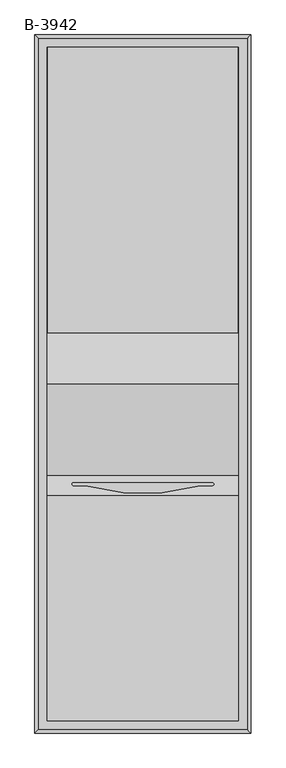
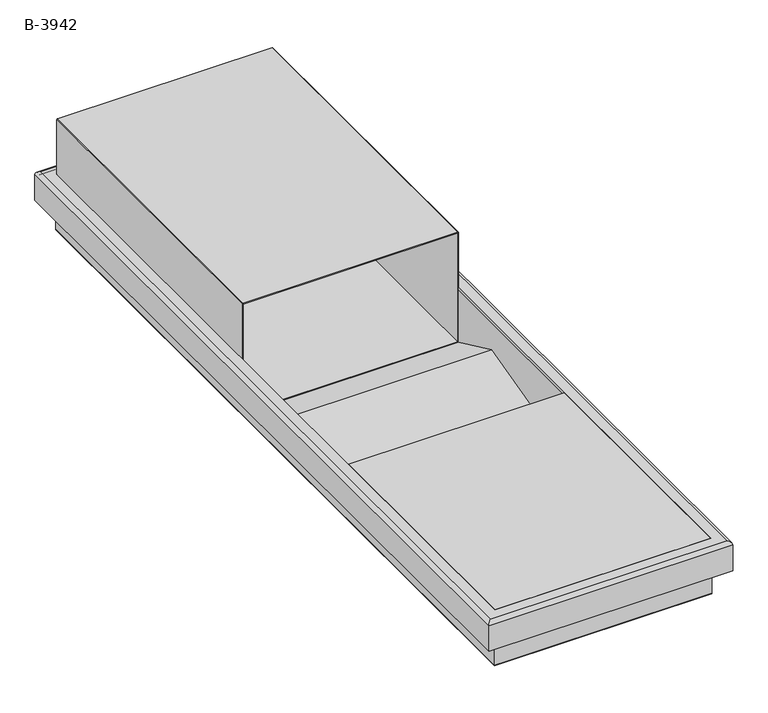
"""IFC4 building model written with IfcOpenShell, lengths in millimetres: proxy geometry, Paper_Towel_Dispenser_And_Waste_Receptacle-Bobrick-B3942-Semi_Recessed_Convertible : B-3942."""

from ifc_helpers import new_model, si_unit, frame, origin, place, context, project, spatial, polyline, circle_curve, ellipse_curve, outline, extrude, source, transform, mapped, element, save
from ifc_brep_helpers import plane_surface, cylinder_surface, revolved_surface, advanced_brep


def b_3942_b31eb5a3(model_context):
    return source(origin(), model_context, "Body", "SolidModel", [
        advanced_brep(
        [(215.10625, 708.025, 55.5625), (215.10625, -708.025, 55.5625), (221.45625, -714.375, 49.2125), (221.45625, 714.375, 49.2125), (196.05625, 688.975, 50.8), (196.05625, -688.975, 50.8), (196.05625, -688.975, 55.5625), (196.05625, 688.975, 55.5625), (216.69375, 709.6125, 47.625), (216.69375, -709.6125, 47.625), (213.51875, -706.4375, 50.8), (213.51875, 706.4375, 50.8), (216.69375, 709.6125, 0.0), (216.69375, -709.6125, 0.0), (221.45625, -714.375, 0.0), (221.45625, 714.375, 0.0), (-215.10625, -708.025, 55.5625), (-221.45625, -714.375, 49.2125), (-196.05625, -688.975, 50.8), (-196.05625, -688.975, 55.5625), (-216.69375, -709.6125, 47.625), (-213.51875, -706.4375, 50.8), (-216.69375, -709.6125, 0.0), (-221.45625, -714.375, 0.0), (-215.10625, 708.025, 55.5625), (-221.45625, 714.375, 49.2125), (-196.05625, 688.975, 50.8), (-196.05625, 688.975, 55.5625), (-216.69375, 709.6125, 47.625), (-213.51875, 706.4375, 50.8), (-216.69375, 709.6125, 0.0), (-221.45625, 714.375, 0.0)],
        [
            (0, 1),
            (1, 2, ellipse_curve(frame((215.10625, -708.025, 49.2125), z_axis=(0.7071067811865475, 0.7071067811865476, 0.0), x_axis=(-0.7071067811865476, 0.7071067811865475, 0.0)), 8.9802561, 6.35)),
            (2, 3),
            (3, 0, ellipse_curve(frame((215.10625, 708.025, 49.2125), z_axis=(0.7071067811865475, -0.7071067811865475, 0.0), x_axis=(0.7071067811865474, 0.7071067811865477, 0.0)), 8.9802561, 6.35)),
            (4, 5),
            (5, 6),
            (6, 7),
            (7, 4),
            (8, 9),
            (9, 10, ellipse_curve(frame((213.51875, -706.4375, 47.625), z_axis=(-0.7071067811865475, -0.7071067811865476, 0.0), x_axis=(0.7071067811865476, -0.7071067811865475, 0.0)), 4.4901281, 3.175)),
            (10, 11),
            (11, 8, ellipse_curve(frame((213.51875, 706.4375, 47.625), z_axis=(-0.7071067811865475, 0.7071067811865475, 0.0), x_axis=(-0.7071067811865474, -0.7071067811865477, 0.0)), 4.4901281, 3.175)),
            (8, 12),
            (12, 13),
            (13, 9),
            (2, 14),
            (14, 15),
            (15, 3),
            (1, 16),
            (16, 17, ellipse_curve(frame((-215.10625, -708.025, 49.2125), z_axis=(0.7071067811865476, -0.7071067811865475, 0.0), x_axis=(0.7071067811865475, 0.7071067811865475, 0.0)), 8.9802561, 6.35)),
            (17, 2),
            (5, 18),
            (18, 19),
            (19, 6),
            (9, 20),
            (20, 21, ellipse_curve(frame((-213.51875, -706.4375, 47.625), z_axis=(-0.7071067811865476, 0.7071067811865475, 0.0), x_axis=(-0.7071067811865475, -0.7071067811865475, 0.0)), 4.4901281, 3.175)),
            (21, 10),
            (13, 22),
            (22, 20),
            (17, 23),
            (23, 14),
            (16, 24),
            (24, 25, ellipse_curve(frame((-215.10625, 708.025, 49.2125), z_axis=(-0.7071067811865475, -0.7071067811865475, 0.0), x_axis=(0.7071067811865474, -0.7071067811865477, 0.0)), 8.9802561, 6.35)),
            (25, 17),
            (18, 26),
            (26, 27),
            (27, 19),
            (20, 28),
            (28, 29, ellipse_curve(frame((-213.51875, 706.4375, 47.625), z_axis=(0.7071067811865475, 0.7071067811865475, 0.0), x_axis=(-0.7071067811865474, 0.7071067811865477, 0.0)), 4.4901281, 3.175)),
            (29, 21),
            (22, 30),
            (30, 28),
            (25, 31),
            (31, 23),
            (3, 25),
            (24, 0),
            (27, 7),
            (26, 4),
            (29, 11),
            (28, 8),
            (30, 12),
            (31, 15),
        ],
        [
            cylinder_surface(frame((215.10625, 714.375, 49.2125), z_axis=(0.0, 1.0, 0.0), x_axis=(-1.0, 0.0, 0.0)), 6.35),
            plane_surface(frame((196.05625, 688.975, 55.5625), z_axis=(-1.0, 0.0, 0.0), x_axis=(0.0, -1.0, 0.0))),
            revolved_surface(polyline([(210.34375, -709.6125000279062, 47.625), (210.34375, 709.6125000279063, 47.625)]), (213.51875, 714.375, 47.625), (0.0, -1.0, 0.0)),
            plane_surface(frame((216.69375, 709.6125, 47.625), z_axis=(-1.0, 0.0, 0.0), x_axis=(0.0, -1.0, 0.0))),
            plane_surface(frame((221.45625, 714.375, 0.0), z_axis=(1.0, 0.0, 0.0), x_axis=(0.0, -1.0, 0.0))),
            cylinder_surface(frame((221.45625, -708.025, 49.2125), z_axis=(1.0, 0.0, 0.0), x_axis=(0.0, 1.0, 0.0)), 6.35),
            plane_surface(frame((196.05625, -688.975, 55.5625), z_axis=(0.0, 1.0, 0.0), x_axis=(-1.0, 0.0, 0.0))),
            revolved_surface(polyline([(-216.69375002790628, -703.2625, 47.625), (216.69375002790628, -703.2625, 47.625)]), (221.45625, -706.4375, 47.625), (-1.0, 0.0, 0.0)),
            plane_surface(frame((216.69375, -709.6125, 47.625), z_axis=(0.0, 1.0, 0.0), x_axis=(-1.0, 0.0, 0.0))),
            plane_surface(frame((221.45625, -714.375, 0.0), z_axis=(0.0, -1.0, 0.0), x_axis=(-1.0, 0.0, 0.0))),
            cylinder_surface(frame((-215.10625, -714.375, 49.2125), z_axis=(0.0, -1.0, 0.0), x_axis=(1.0, 0.0, 0.0)), 6.35),
            plane_surface(frame((-196.05625, -688.975, 55.5625), z_axis=(1.0, 0.0, 0.0), x_axis=(0.0, 1.0, 0.0))),
            revolved_surface(polyline([(-210.34375, 709.6125000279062, 47.625), (-210.34375, -709.6125000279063, 47.625)]), (-213.51875, -714.375, 47.625), (0.0, 1.0, 0.0)),
            plane_surface(frame((-216.69375, -709.6125, 47.625), z_axis=(1.0, 0.0, 0.0), x_axis=(0.0, 1.0, 0.0))),
            plane_surface(frame((-221.45625, -714.375, 0.0), z_axis=(-1.0, 0.0, 0.0), x_axis=(0.0, 1.0, 0.0))),
            cylinder_surface(frame((-221.45625, 708.025, 49.2125), z_axis=(-1.0, 0.0, 0.0), x_axis=(0.0, -1.0, 0.0)), 6.35),
            plane_surface(frame((-215.10625, 708.025, 55.5625), z_axis=(0.0, 0.0, 1.0), x_axis=(1.0, 0.0, 0.0))),
            plane_surface(frame((-196.05625, 688.975, 55.5625), z_axis=(0.0, -1.0, 0.0), x_axis=(1.0, 0.0, 0.0))),
            plane_surface(frame((-196.05625, 688.975, 50.8), z_axis=(0.0, 0.0, -1.0), x_axis=(1.0, 0.0, 0.0))),
            revolved_surface(polyline([(216.69375002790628, 703.2625, 47.625), (-216.69375002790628, 703.2625, 47.625)]), (-221.45625, 706.4375, 47.625), (1.0, 0.0, 0.0)),
            plane_surface(frame((-216.69375, 709.6125, 47.625), z_axis=(0.0, -1.0, 0.0), x_axis=(1.0, 0.0, 0.0))),
            plane_surface(frame((-216.69375, 709.6125, 0.0), z_axis=(0.0, 0.0, -1.0), x_axis=(1.0, 0.0, 0.0))),
            plane_surface(frame((-221.45625, 714.375, 0.0), z_axis=(0.0, 1.0, 0.0), x_axis=(1.0, 0.0, 0.0))),
        ],
        [
            (0, [[1, 2, 3, 4]]),
            (1, [[5, 6, 7, 8]]),
            (2, [[9, 10, 11, 12]]),
            (3, [[13, 14, 15, -9]]),
            (4, [[16, 17, 18, -3]]),
            (5, [[19, 20, 21, -2]]),
            (6, [[22, 23, 24, -6]]),
            (7, [[25, 26, 27, -10]]),
            (8, [[28, 29, -25, -15]]),
            (9, [[-21, 30, 31, -16]]),
            (10, [[32, 33, 34, -20]]),
            (11, [[35, 36, 37, -23]]),
            (12, [[38, 39, 40, -26]]),
            (13, [[41, 42, -38, -29]]),
            (14, [[-34, 43, 44, -30]]),
            (15, [[45, -33, 46, -4]]),
            (16, [[-46, -32, -19, -1], [-24, -37, 47, -7]]),
            (17, [[-47, -36, 48, -8]]),
            (18, [[-27, -40, 49, -11], [-48, -35, -22, -5]]),
            (19, [[-49, -39, 50, -12]]),
            (20, [[-50, -42, 51, -13]]),
            (21, [[-31, -44, 52, -17], [-51, -41, -28, -14]]),
            (22, [[-52, -43, -45, -18]]),
        ],
    ),
        advanced_brep(
        [(197.64375, -690.5625, 50.8), (197.64375, 690.5625, 50.8), (-197.64375, 690.5625, 50.8), (-197.64375, -690.5625, 50.8), (196.05625, 688.975, 50.8), (196.05625, -226.695, 50.8), (196.05625, -228.6, 50.8), (196.05625, -688.975, 50.8), (-196.05625, -688.975, 50.8), (-196.05625, -228.6, 50.8), (-196.05625, -226.695, 50.8), (-196.05625, 688.975, 50.8), (197.64375, -690.5625, -49.2125), (-197.64375, -690.5625, -49.2125), (-197.64375, 690.5625, -49.2125), (197.64375, 690.5625, -49.2125), (196.05625, -688.975, -49.2125), (196.05625, -188.595, -49.2125), (-196.05625, -188.595, -49.2125), (-196.05625, -688.975, -49.2125), (-196.05625, 688.975, -49.2125), (-196.05625, 104.775, -49.2125), (196.05625, 104.775, -49.2125), (196.05625, 688.975, -49.2125), (196.05625, 0.0, 0.0), (196.05625, -187.325, -47.625), (-196.05625, -187.325, -47.625), (-196.05625, 0.0, 0.0), (196.05625, -228.6, 55.5625), (196.05625, -688.975, 55.5625), (196.05625, -688.975, 50.8), (-196.05625, -228.6, 55.5625), (-196.05625, -688.975, 50.8), (-196.05625, -688.975, 55.5625), (142.08125, -201.6125, -11.90625), (142.08125, -207.9625, 3.96875), (117.475, -207.9625, 3.96875), (-117.475, -207.9625, 3.96875), (-142.08125, -207.9625, 3.96875), (-142.08125, -201.6125, -11.90625), (-142.08125, -201.6125, -16.66875), (-142.08125, -207.9625, -0.79375), (-117.475, -207.9625, -0.79375), (117.475, -207.9625, -0.79375), (142.08125, -207.9625, -0.79375), (142.08125, -201.6125, -16.66875)],
        [
            (0, 1),
            (1, 2),
            (2, 3),
            (3, 0),
            (4, 5),
            (5, 6),
            (6, 7),
            (7, 8),
            (8, 9),
            (9, 10),
            (10, 11),
            (11, 4),
            (12, 13),
            (13, 14),
            (14, 15),
            (15, 12),
            (16, 17),
            (17, 18),
            (18, 19),
            (19, 16),
            (20, 21),
            (21, 22),
            (22, 23),
            (23, 20),
            (3, 13),
            (12, 0),
            (2, 14),
            (1, 15),
            (6, 17),
            (16, 7),
            (22, 24),
            (24, 25),
            (25, 5),
            (4, 23),
            (11, 20),
            (10, 26),
            (26, 27),
            (27, 21),
            (18, 9),
            (8, 19),
            (5, 28),
            (28, 29),
            (29, 30),
            (30, 6),
            (31, 10),
            (9, 32),
            (32, 33),
            (33, 31),
            (30, 32),
            (9, 6),
            (29, 33),
            (28, 31),
            (25, 26),
            (34, 35, ellipse_curve(frame((142.08125, -204.7875, -3.96875), z_axis=(0.0, -0.9284766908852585, -0.37139067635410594), x_axis=(0.0, 0.371390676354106, -0.9284766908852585)), 8.5489491, 3.175)),
            (35, 36),
            (36, 37, ellipse_curve(frame((0.0, 215.9738116, -1055.872029), z_axis=(0.0, -0.9284766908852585, -0.37139067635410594), x_axis=(0.0, 0.371390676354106, -0.9284766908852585)), 1184.498711, 439.9117774)),
            (37, 38),
            (38, 39, ellipse_curve(frame((-142.08125, -204.7875, -3.96875), z_axis=(0.0, -0.9284766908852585, -0.37139067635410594), x_axis=(0.0, 0.371390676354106, -0.9284766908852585)), 8.5489491, 3.175)),
            (39, 34),
            (40, 41, ellipse_curve(frame((-142.08125, -204.7875, -8.73125), z_axis=(0.0, 0.9284766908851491, 0.3713906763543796), x_axis=(0.0, 0.3713906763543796, -0.928476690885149)), 8.5489491, 3.175)),
            (41, 42),
            (42, 43, ellipse_curve(frame((0.0, 215.9738116, -1060.634529), z_axis=(0.0, 0.9284766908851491, 0.3713906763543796), x_axis=(0.0, 0.3713906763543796, -0.928476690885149)), 1184.498711, 439.9117774)),
            (43, 44),
            (44, 45, ellipse_curve(frame((142.08125, -204.7875, -8.73125), z_axis=(0.0, 0.9284766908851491, 0.3713906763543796), x_axis=(0.0, 0.3713906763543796, -0.928476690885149)), 8.5489491, 3.175)),
            (45, 40),
            (24, 27),
            (39, 40),
            (45, 34),
            (38, 41),
            (37, 42),
            (36, 43),
            (35, 44),
        ],
        [
            plane_surface(frame((-197.64375, -690.5625, 50.8), z_axis=(0.0, 0.0, 1.0), x_axis=(-1.0, 0.0, 0.0))),
            plane_surface(frame((-197.64375, -690.5625, -49.2125), z_axis=(0.0, 0.0, -1.0), x_axis=(1.0, 0.0, 0.0))),
            plane_surface(frame((197.64375, -690.5625, 50.8), z_axis=(0.0, -1.0, 0.0), x_axis=(0.0, 0.0, -1.0))),
            plane_surface(frame((-197.64375, -690.5625, 50.8), z_axis=(-1.0, 0.0, 0.0), x_axis=(0.0, 0.0, -1.0))),
            plane_surface(frame((-197.64375, 690.5625, 50.8), z_axis=(0.0, 1.0, 0.0), x_axis=(0.0, 0.0, -1.0))),
            plane_surface(frame((197.64375, 690.5625, 50.8), z_axis=(1.0, 0.0, 0.0), x_axis=(0.0, 0.0, -1.0))),
            plane_surface(frame((196.05625, -688.975, 50.8), z_axis=(-1.0, 0.0, 0.0), x_axis=(0.0, 0.0, -1.0))),
            plane_surface(frame((196.05625, 688.975, 50.8), z_axis=(0.0, -1.0, 0.0), x_axis=(0.0, 0.0, -1.0))),
            plane_surface(frame((-196.05625, 688.975, 50.8), z_axis=(1.0, 0.0, 0.0), x_axis=(0.0, 0.0, -1.0))),
            plane_surface(frame((-196.05625, -688.975, 50.8), z_axis=(0.0, 1.0, 0.0), x_axis=(0.0, 0.0, -1.0))),
            plane_surface(frame((196.05625, -228.6, 55.5625), z_axis=(1.0000000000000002, 0.0, 0.0), x_axis=(0.0, 0.37139067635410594, -0.9284766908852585))),
            plane_surface(frame((-196.05625, -228.6, 55.5625), z_axis=(-1.0000000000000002, 0.0, 0.0), x_axis=(0.0, -0.37139067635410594, 0.9284766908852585))),
            plane_surface(frame((196.05625, -228.6, 50.8), z_axis=(0.0, 0.0, -1.0), x_axis=(-1.0, 0.0, 0.0))),
            plane_surface(frame((196.05625, -688.975, 50.8), z_axis=(0.0, -1.0, 0.0), x_axis=(-1.0, 0.0, 0.0))),
            plane_surface(frame((196.05625, -688.975, 55.5625), z_axis=(0.0, 0.0, 1.0), x_axis=(-1.0, 0.0, 0.0))),
            plane_surface(frame((196.05625, -228.6, 55.5625), z_axis=(0.0, 0.9284766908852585, 0.37139067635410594), x_axis=(-1.0, 0.0, 0.0))),
            plane_surface(frame((196.05625, -188.595, -49.2125), z_axis=(0.0, -0.9284766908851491, -0.3713906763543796), x_axis=(-1.0, 0.0, 0.0))),
            plane_surface(frame((196.05625, -187.325, -47.625), z_axis=(0.0, -0.2463987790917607, 0.9691685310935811), x_axis=(-1.0, 0.0, 0.0))),
            plane_surface(frame((196.05625, 0.0, 0.0), z_axis=(0.0, 0.42513647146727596, 0.9051292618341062), x_axis=(-1.0, 0.0, 0.0))),
            plane_surface(frame((142.08125, -201.6125, -49.2125), z_axis=(0.0, -1.0, 0.0), x_axis=(0.0, 0.0, 1.0))),
            revolved_surface(polyline([(-138.90625, -204.7875, -16.66874999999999), (-138.90625, -204.7875, 3.96875)]), (-142.08125, -204.7875, 161.925), (0.0, 0.0, -1.0)),
            plane_surface(frame((-142.08125, -207.9625, -49.2125), z_axis=(0.0, 1.0, 0.0), x_axis=(0.0, 0.0, 1.0))),
            revolved_surface(polyline([(439.9117774, 215.9738116, -2160.413972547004), (439.9117774, 215.9738116, 43.907414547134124)]), (0.0, 215.9738116, 161.925), (0.0, 0.0, -1.0)),
            plane_surface(frame((117.475, -207.9625, -49.2125), z_axis=(0.0, 1.0, 0.0), x_axis=(0.0, 0.0, 1.0))),
            revolved_surface(polyline([(145.25625000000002, -204.7875, -16.66874999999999), (145.25625000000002, -204.7875, 3.96875)]), (142.08125, -204.7875, 161.925), (0.0, 0.0, -1.0)),
        ],
        [
            (0, [[1, 2, 3, 4], [5, 6, 7, 8, 9, 10, 11, 12]]),
            (1, [[13, 14, 15, 16], [17, 18, 19, 20], [21, 22, 23, 24]]),
            (2, [[25, -13, 26, -4]]),
            (3, [[27, -14, -25, -3]]),
            (4, [[28, -15, -27, -2]]),
            (5, [[-26, -16, -28, -1]]),
            (6, [[-7, 29, -17, 30]]),
            (6, [[-23, 31, 32, 33, -5, 34]]),
            (7, [[35, -24, -34, -12]]),
            (8, [[-11, 36, 37, 38, -21, -35]]),
            (8, [[-19, 39, -9, 40]]),
            (9, [[-30, -20, -40, -8]]),
            (10, [[-6, 41, 42, 43, 44]]),
            (11, [[45, -10, 46, 47, 48]]),
            (12, [[49, -46, 50, -44]]),
            (13, [[51, -47, -49, -43]]),
            (14, [[52, -48, -51, -42]]),
            (15, [[-41, -33, 53, -36, -45, -52], [54, 55, 56, 57, 58, 59]]),
            (16, [[-39, -18, -29, -50], [60, 61, 62, 63, 64, 65]]),
            (17, [[-32, 66, -37, -53]]),
            (18, [[-38, -66, -31, -22]]),
            (19, [[-59, 67, -65, 68]]),
            (20, [[-58, 69, -60, -67]]),
            (21, [[-57, 70, -61, -69]]),
            (22, [[-56, 71, -62, -70]]),
            (23, [[-55, 72, -63, -71]]),
            (24, [[-64, -72, -54, -68]]),
        ],
    ),
        advanced_brep(
        [(196.05625, 688.975, 160.734375), (196.05625, 688.975, -49.2125), (-196.05625, 688.975, -49.2125), (-196.05625, 688.975, 160.7491672), (-194.8804172, 688.975, 161.925), (194.865625, 688.975, 161.925), (-193.2929172, 688.975, 160.3375), (-194.46875, 688.975, 160.3375), (-194.46875, 688.975, 159.1616672), (-194.46875, 687.3875, 159.1616672), (-194.46875, 687.3875, -47.625), (194.46875, 687.3875, -47.625), (194.46875, 687.3875, 160.3375), (-193.2929172, 687.3875, 160.3375), (196.05625, 104.775, -49.2125), (-196.05625, 104.775, -49.2125), (196.05625, 104.775, 160.734375), (194.865625, 104.775, 161.925), (-194.8804172, 104.775, 161.925), (-196.05625, 104.775, 160.7491672), (194.46875, 104.775, 160.3375), (194.46875, 104.775, -47.625), (-194.46875, 104.775, -47.625), (-194.46875, 104.775, 160.3375)],
        [
            (0, 1),
            (1, 2),
            (2, 3),
            (3, 4, circle_curve(frame((-194.8804172, 688.975, 160.7491672), z_axis=(0.0, 1.0, 0.0), x_axis=(1.0, 0.0, 0.0)), 1.1758328)),
            (4, 5),
            (5, 0, circle_curve(frame((194.865625, 688.975, 160.734375), z_axis=(0.0, 1.0, 0.0), x_axis=(1.0, 0.0, 0.0)), 1.190625)),
            (6, 7),
            (7, 8),
            (8, 6, circle_curve(frame((-193.2929172, 688.975, 159.1616672), z_axis=(0.0, 1.0, 0.0), x_axis=(1.0, 0.0, 0.0)), 1.1758328)),
            (9, 10),
            (10, 11),
            (11, 12),
            (12, 13),
            (13, 9, circle_curve(frame((-193.2929172, 687.3875, 159.1616672), z_axis=(0.0, -1.0, 0.0), x_axis=(1.0, 0.0, 0.0)), 1.1758328)),
            (1, 14),
            (14, 15),
            (15, 2),
            (0, 16),
            (16, 14),
            (17, 18),
            (18, 19, circle_curve(frame((-194.8804172, 104.775, 160.7491672), z_axis=(0.0, -1.0, 0.0), x_axis=(1.0, 0.0, 0.0)), 1.1758328)),
            (19, 15),
            (16, 17, circle_curve(frame((194.865625, 104.775, 160.734375), z_axis=(0.0, -1.0, 0.0), x_axis=(1.0, 0.0, 0.0)), 1.190625)),
            (20, 21),
            (21, 22),
            (22, 23),
            (23, 20),
            (4, 18),
            (17, 5),
            (19, 3),
            (20, 12),
            (11, 21),
            (10, 22),
            (9, 8),
            (7, 23),
            (6, 13),
        ],
        [
            plane_surface(frame((-196.05625, 688.975, 160.3375), z_axis=(0.0, 1.0, 0.0), x_axis=(-1.0, 0.0, 0.0))),
            plane_surface(frame((-196.05625, 687.3875, 160.3375), z_axis=(0.0, -1.0, 0.0), x_axis=(1.0, 0.0, 0.0))),
            plane_surface(frame((-194.46875, 688.975, -49.2125), z_axis=(0.0, 0.0, -1.0), x_axis=(0.0, -1.0, 0.0))),
            plane_surface(frame((196.05625, 688.975, -49.2125), z_axis=(1.0, 0.0, 0.0), x_axis=(0.0, -1.0, 0.0))),
            plane_surface(frame((-196.05625, 104.775, 161.925), z_axis=(0.0, -1.0, 0.0), x_axis=(1.0, 0.0, 0.0))),
            plane_surface(frame((194.865625, 688.975, 161.925), z_axis=(0.0, 0.0, 1.0), x_axis=(0.0, -1.0, 0.0))),
            plane_surface(frame((-196.05625, 688.975, 160.7491672), z_axis=(-1.0, 0.0, 0.0), x_axis=(0.0, -1.0, 0.0))),
            plane_surface(frame((194.46875, 688.975, 160.3375), z_axis=(-1.0, 0.0, 0.0), x_axis=(0.0, -1.0, 0.0))),
            plane_surface(frame((194.46875, 688.975, -47.625), z_axis=(0.0, 0.0, 1.0), x_axis=(0.0, -1.0, 0.0))),
            plane_surface(frame((-194.46875, 688.975, -47.625), z_axis=(1.0, 0.0, 0.0), x_axis=(0.0, -1.0, 0.0))),
            plane_surface(frame((-194.46875, 688.975, 160.3375), z_axis=(0.0, 0.0, -1.0), x_axis=(0.0, -1.0, 0.0))),
            cylinder_surface(frame((-194.8804172, 104.775, 160.7491672), z_axis=(0.0, 1.0, 0.0), x_axis=(1.0, 0.0, 0.0)), 1.1758328),
            cylinder_surface(frame((194.865625, 104.775, 160.734375), z_axis=(0.0, 1.0, 0.0), x_axis=(1.0, 0.0, 0.0)), 1.190625),
            cylinder_surface(frame((-193.2929172, 687.3875, 159.1616672), z_axis=(0.0, 1.0, 0.0), x_axis=(1.0, 0.0, 0.0)), 1.1758328),
        ],
        [
            (0, [[1, 2, 3, 4, 5, 6], [7, 8, 9]]),
            (1, [[10, 11, 12, 13, 14]]),
            (2, [[15, 16, 17, -2]]),
            (3, [[18, 19, -15, -1]]),
            (4, [[20, 21, 22, -16, -19, 23], [24, 25, 26, 27]]),
            (5, [[28, -20, 29, -5]]),
            (6, [[-17, -22, 30, -3]]),
            (7, [[31, -12, 32, -24]]),
            (8, [[-32, -11, 33, -25]]),
            (9, [[-33, -10, 34, -8, 35, -26]]),
            (10, [[-35, -7, 36, -13, -31, -27]]),
            (11, [[-30, -21, -28, -4]]),
            (12, [[-29, -23, -18, -6]]),
            (13, [[-34, -14, -36, -9]]),
        ],
    ),
        extrude(outline(polyline([(197.64375, -690.5625), (-197.64375, -690.5625), (-197.64375, 690.5625), (197.64375, 690.5625), (197.64375, -690.5625)])), frame((0.0, 0.0, -50.8), z_axis=(0.0, 0.0, 1.0), x_axis=(1.0, 0.0, 0.0)), (0.0, 0.0, 1.0), 1.5875),
    ])


if __name__ == "__main__":
    model = new_model("IFC4")
    model_context = context("Model", 3, world=origin())
    ifc_project = project(units=[si_unit("LENGTHUNIT", "METRE", prefix="MILLI")], contexts=[model_context])
    site = spatial("IfcSite", under=ifc_project)
    building = spatial("IfcBuilding", under=site)
    placement = place(None, origin())
    b_3942_shape = b_3942_b31eb5a3(model_context)
    element("IfcBuildingElementProxy", 1, Name="Paper_Towel_Dispenser_And_Waste_Receptacle-Bobrick-B3942-Semi_Recessed_Convertible : B-3942", ObjectType="Paper_Towel_Dispenser_And_Waste_Receptacle-Bobrick-B3942-Semi_Recessed_Convertible : B-3942", at=placement, inside=building, context=model_context, shape_type="MappedRepresentation", body=[
        mapped(b_3942_shape, transform((0.0, 0.0, 0.0), x_axis=(1.0, 0.0, 0.0), y_axis=(0.0, 1.0, 0.0), z_axis=(0.0, 0.0, 1.0))),
    ])
    save(model, "model.ifc")
